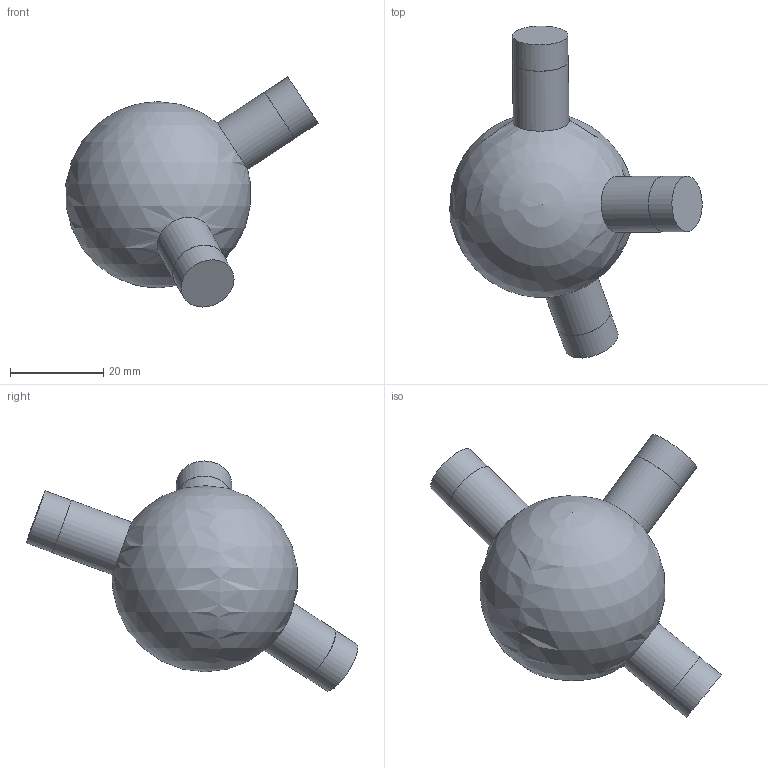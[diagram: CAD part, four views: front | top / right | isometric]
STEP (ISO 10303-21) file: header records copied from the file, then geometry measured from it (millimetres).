
FILE_DESCRIPTION(('Open CASCADE Model'),'2;1');
FILE_NAME('Open CASCADE Shape Model','2026-10-21T12:47:57',('Author'),( 'Open CASCADE'),'Open CASCADE STEP processor 7.9','Open CASCADE 7.9' ,'Unknown');
FILE_SCHEMA(('AUTOMOTIVE_DESIGN { 1 0 10303 214 1 1 1 1 }'));
Length unit declared in the file: millimetre
Products named in the file (1): Open CASCADE STEP translator 7.9 19
Bounding box: 54.23 x 71.32 x 49.46 mm (x, y, z)
Volume: 39570.9 mm3; surface area: 7096.9 mm2
Topology: 1 solids, 1 shells, 13 faces, 23 edges, 16 vertices
Faces by surface type: cylinder 6, plane 6, sphere 1
Full cylindrical faces by diameter (mm): 11.9 x3, 12 x3
Entity records: 787 total; most frequent: CARTESIAN_POINT 273, DIRECTION 105, ORIENTED_EDGE 44, PCURVE 44, DEFINITIONAL_REPRESENTATION 44, LINE 36, VECTOR 36, AXIS2_PLACEMENT_3D 30
